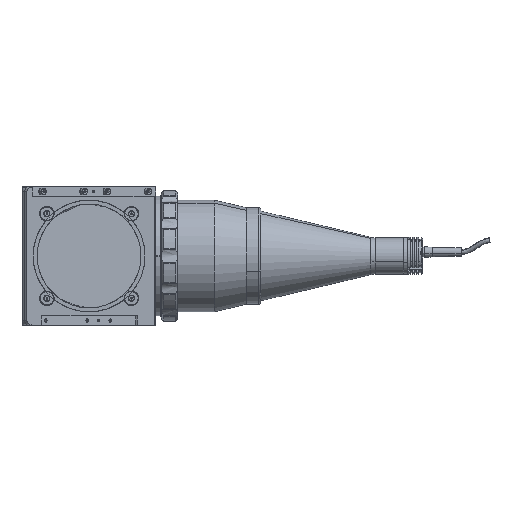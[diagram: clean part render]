
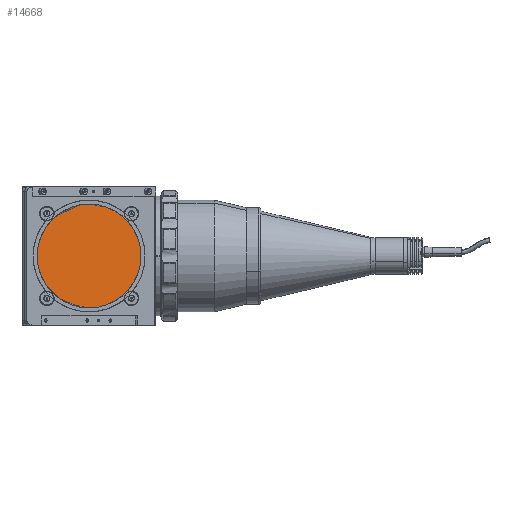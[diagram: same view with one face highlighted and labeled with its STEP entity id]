
A CAD part, left-side view. The second image highlights one B-rep face of the part: STEP entity #14668.
In plain terms, the highlighted free-form (B-spline) face has degree [1, 1] with [2, 2] control points.
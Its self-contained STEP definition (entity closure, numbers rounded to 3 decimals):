
#14668 = ADVANCED_FACE('',(#14669),#14683,.T.);
#14669 = FACE_BOUND('',#14670,.T.);
#14670 = EDGE_LOOP('',(#14671,#14693,#14708,#14723));
#14671 = ORIENTED_EDGE('',*,*,#14672,.T.);
#14672 = EDGE_CURVE('',#14673,#14675,#14677,.T.);
#14673 = VERTEX_POINT('',#14674);
#14674 = CARTESIAN_POINT('',(56.957,-56.957,59.85));
#14675 = VERTEX_POINT('',#14676);
#14676 = CARTESIAN_POINT('',(56.957,-56.957,-59.85));
#14677 = SURFACE_CURVE('',#14678,(#14682),.PCURVE_S1.);
#14678 = LINE('',#14679,#14680);
#14679 = CARTESIAN_POINT('',(56.957,-56.957,59.85));
#14680 = VECTOR('',#14681,1.);
#14681 = DIRECTION('',(0.,0.,-1.));
#14682 = PCURVE('',#14683,#14688);
#14683 = B_SPLINE_SURFACE_WITH_KNOTS('',1,1,(
    (#14684,#14685)
    ,(#14686,#14687
    )),.UNSPECIFIED.,.F.,.F.,.F.,(2,2),(2,2),(0.,1.),(0.,1.),
  .PIECEWISE_BEZIER_KNOTS.);
#14684 = CARTESIAN_POINT('',(56.957,-56.957,59.85));
#14685 = CARTESIAN_POINT('',(-56.957,56.957,59.85));
#14686 = CARTESIAN_POINT('',(56.957,-56.957,-59.85));
#14687 = CARTESIAN_POINT('',(-56.957,56.957,-59.85));
#14688 = DEFINITIONAL_REPRESENTATION('',(#14689),#14692);
#14689 = B_SPLINE_CURVE_WITH_KNOTS('',1,(#14690,#14691),.UNSPECIFIED.,
  .F.,.F.,(2,2),(0.,119.7),.PIECEWISE_BEZIER_KNOTS.);
#14690 = CARTESIAN_POINT('',(0.,0.));
#14691 = CARTESIAN_POINT('',(1.,0.));
#14692 = ( GEOMETRIC_REPRESENTATION_CONTEXT(2) 
PARAMETRIC_REPRESENTATION_CONTEXT() REPRESENTATION_CONTEXT('',''
  ) );
#14693 = ORIENTED_EDGE('',*,*,#14694,.T.);
#14694 = EDGE_CURVE('',#14675,#14695,#14697,.T.);
#14695 = VERTEX_POINT('',#14696);
#14696 = CARTESIAN_POINT('',(-56.957,56.957,-59.85));
#14697 = SURFACE_CURVE('',#14698,(#14702),.PCURVE_S1.);
#14698 = LINE('',#14699,#14700);
#14699 = CARTESIAN_POINT('',(56.957,-56.957,-59.85));
#14700 = VECTOR('',#14701,1.);
#14701 = DIRECTION('',(-0.707,0.707,0.));
#14702 = PCURVE('',#14683,#14703);
#14703 = DEFINITIONAL_REPRESENTATION('',(#14704),#14707);
#14704 = B_SPLINE_CURVE_WITH_KNOTS('',1,(#14705,#14706),.UNSPECIFIED.,
  .F.,.F.,(2,2),(0.,161.1),.PIECEWISE_BEZIER_KNOTS.);
#14705 = CARTESIAN_POINT('',(1.,0.));
#14706 = CARTESIAN_POINT('',(1.,1.));
#14707 = ( GEOMETRIC_REPRESENTATION_CONTEXT(2) 
PARAMETRIC_REPRESENTATION_CONTEXT() REPRESENTATION_CONTEXT('',''
  ) );
#14708 = ORIENTED_EDGE('',*,*,#14709,.T.);
#14709 = EDGE_CURVE('',#14695,#14710,#14712,.T.);
#14710 = VERTEX_POINT('',#14711);
#14711 = CARTESIAN_POINT('',(-56.957,56.957,59.85));
#14712 = SURFACE_CURVE('',#14713,(#14717),.PCURVE_S1.);
#14713 = LINE('',#14714,#14715);
#14714 = CARTESIAN_POINT('',(-56.957,56.957,-59.85));
#14715 = VECTOR('',#14716,1.);
#14716 = DIRECTION('',(0.,0.,1.));
#14717 = PCURVE('',#14683,#14718);
#14718 = DEFINITIONAL_REPRESENTATION('',(#14719),#14722);
#14719 = B_SPLINE_CURVE_WITH_KNOTS('',1,(#14720,#14721),.UNSPECIFIED.,
  .F.,.F.,(2,2),(0.,119.7),.PIECEWISE_BEZIER_KNOTS.);
#14720 = CARTESIAN_POINT('',(1.,1.));
#14721 = CARTESIAN_POINT('',(0.,1.));
#14722 = ( GEOMETRIC_REPRESENTATION_CONTEXT(2) 
PARAMETRIC_REPRESENTATION_CONTEXT() REPRESENTATION_CONTEXT('',''
  ) );
#14723 = ORIENTED_EDGE('',*,*,#14724,.T.);
#14724 = EDGE_CURVE('',#14710,#14673,#14725,.T.);
#14725 = SURFACE_CURVE('',#14726,(#14730),.PCURVE_S1.);
#14726 = LINE('',#14727,#14728);
#14727 = CARTESIAN_POINT('',(-56.957,56.957,59.85));
#14728 = VECTOR('',#14729,1.);
#14729 = DIRECTION('',(0.707,-0.707,0.));
#14730 = PCURVE('',#14683,#14731);
#14731 = DEFINITIONAL_REPRESENTATION('',(#14732),#14735);
#14732 = B_SPLINE_CURVE_WITH_KNOTS('',1,(#14733,#14734),.UNSPECIFIED.,
  .F.,.F.,(2,2),(0.,161.1),.PIECEWISE_BEZIER_KNOTS.);
#14733 = CARTESIAN_POINT('',(0.,1.));
#14734 = CARTESIAN_POINT('',(0.,0.));
#14735 = ( GEOMETRIC_REPRESENTATION_CONTEXT(2) 
PARAMETRIC_REPRESENTATION_CONTEXT() REPRESENTATION_CONTEXT('',''
  ) );
